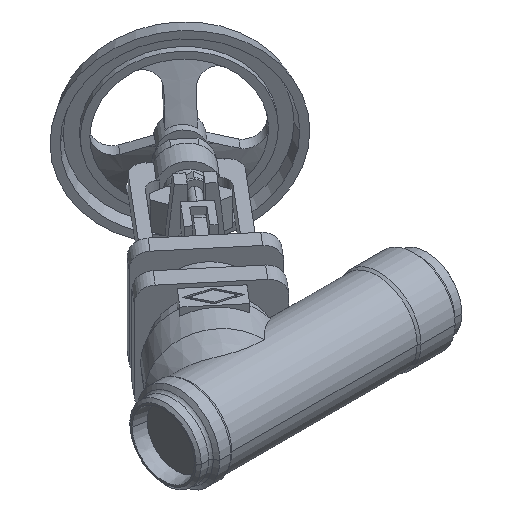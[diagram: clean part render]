
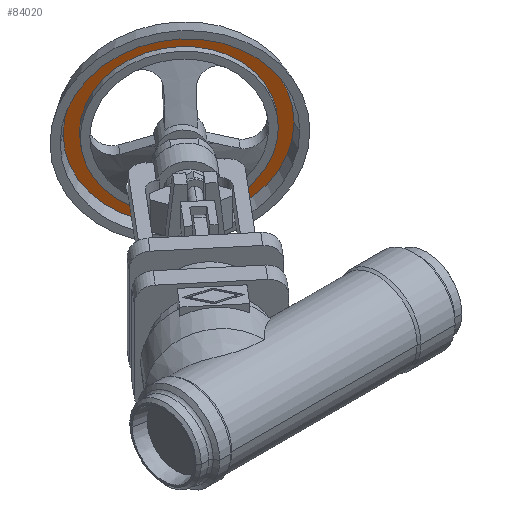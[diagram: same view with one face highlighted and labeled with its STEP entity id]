
A CAD part, isometric view. The second image highlights one B-rep face of the part: STEP entity #84020.
In plain terms, the highlighted planar face has unit normal (-0.643, -0.766, 0).
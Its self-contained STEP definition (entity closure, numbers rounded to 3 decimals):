
#83470=CARTESIAN_POINT('',(190.406,277.36,
0.));
#83480=VERTEX_POINT('',#83470);
#83560=CARTESIAN_POINT('',(299.352,185.944,
0.));
#83570=VERTEX_POINT('',#83560);
#83600=CARTESIAN_POINT('',(244.879,231.652,0.));
#83610=DIRECTION('',(0.643,0.766,
0.));
#83620=DIRECTION('',(-0.766,0.643,
0.));
#83630=AXIS2_PLACEMENT_3D('',#83600,#83610,#83620);
#83640=CIRCLE('',#83630,71.109);
#83650=EDGE_CURVE('',#83480,#83570,#83640,.T.);
#83770=CARTESIAN_POINT('',(194.278,274.111,
0.));
#83780=DIRECTION('',(-0.643,-0.766,0.));
#83790=DIRECTION('',(0.766,-0.643,
0.));
#83800=AXIS2_PLACEMENT_3D('',#83770,#83780,#83790);
#83810=PLANE('',#83800);
#83820=EDGE_CURVE('',#83570,#83480,#83640,.T.);
#83830=ORIENTED_EDGE('',*,*,#83820,.F.);
#83840=ORIENTED_EDGE('',*,*,#83650,.F.);
#83850=EDGE_LOOP('',(#83840,#83830));
#83860=FACE_OUTER_BOUND('',#83850,.T.);
#83870=CARTESIAN_POINT('',(244.879,231.652,0.));
#83880=DIRECTION('',(0.643,0.766,
0.));
#83890=DIRECTION('',(-0.766,0.643,
0.));
#83900=AXIS2_PLACEMENT_3D('',#83870,#83880,#83890);
#83910=CIRCLE('',#83900,61.);
#83920=CARTESIAN_POINT('',(198.15,270.862,
0.));
#83930=VERTEX_POINT('',#83920);
#83940=CARTESIAN_POINT('',(291.608,192.442,
0.));
#83950=VERTEX_POINT('',#83940);
#83960=EDGE_CURVE('',#83930,#83950,#83910,.T.);
#83970=ORIENTED_EDGE('',*,*,#83960,.T.);
#83980=EDGE_CURVE('',#83950,#83930,#83910,.T.);
#83990=ORIENTED_EDGE('',*,*,#83980,.T.);
#84000=EDGE_LOOP('',(#83990,#83970));
#84010=FACE_BOUND('',#84000,.T.);
#84020=ADVANCED_FACE('',(#83860,#84010),#83810,.T.);
